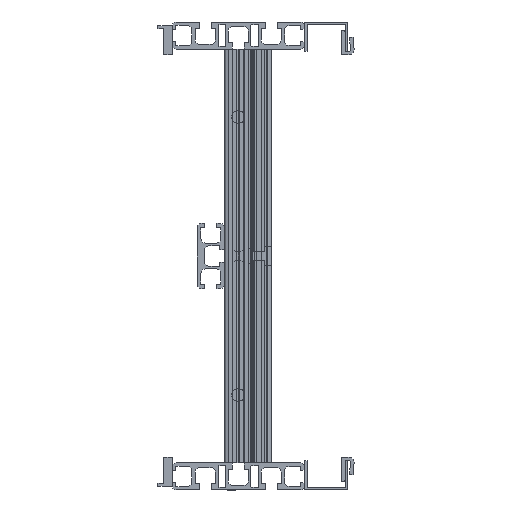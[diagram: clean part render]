
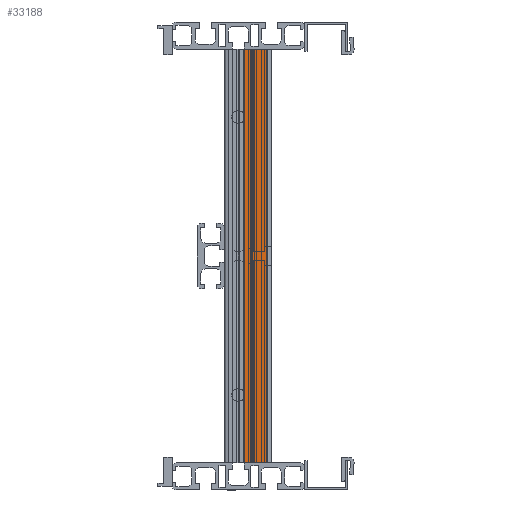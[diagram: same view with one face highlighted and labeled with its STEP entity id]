
A CAD part, left-side view. The second image highlights one B-rep face of the part: STEP entity #33188.
In plain terms, the highlighted planar face has unit normal (-1, 0, 0).
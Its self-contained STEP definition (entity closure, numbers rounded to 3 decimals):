
#2809 = DIRECTION ( 'NONE',  ( 0., 0., 1. ) ) ;
#2810 = DIRECTION ( 'NONE',  ( 0., 1., 0. ) ) ;
#2811 = CARTESIAN_POINT ( 'NONE',  ( -2410., -65., -141.5 ) ) ;
#2815 = DIRECTION ( 'NONE',  ( 0., 1., 0. ) ) ;
#2816 = CARTESIAN_POINT ( 'NONE',  ( -2410., -49.15, -141.5 ) ) ;
#2817 = CARTESIAN_POINT ( 'NONE',  ( -2410., -65., 141.5 ) ) ;
#2821 = CARTESIAN_POINT ( 'NONE',  ( -2410., -65., -141.5 ) ) ;
#2822 = DIRECTION ( 'NONE',  ( 0., 0., 1. ) ) ;
#5938 = LINE ( 'NONE', #2811, #5946 ) ;
#5945 = LINE ( 'NONE', #2816, #5951 ) ;
#5946 = VECTOR ( 'NONE', #2809, 1000. ) ;
#5947 = LINE ( 'NONE', #2817, #5949 ) ;
#5948 = LINE ( 'NONE', #2821, #5953 ) ;
#5949 = VECTOR ( 'NONE', #2815, 1000. ) ;
#5951 = VECTOR ( 'NONE', #2822, 1000. ) ;
#5953 = VECTOR ( 'NONE', #2810, 1000. ) ;
#22043 = CARTESIAN_POINT ( 'NONE',  ( -2410., -65., -141.5 ) ) ;
#22045 = CARTESIAN_POINT ( 'NONE',  ( -2410., -65., 141.5 ) ) ;
#22047 = CARTESIAN_POINT ( 'NONE',  ( -2410., -49.15, 141.5 ) ) ;
#22053 = CARTESIAN_POINT ( 'NONE',  ( -2410., -49.15, -141.5 ) ) ;
#24395 = CARTESIAN_POINT ( 'NONE',  ( -2410., -65., -141.5 ) ) ;
#24410 = PLANE ( 'NONE',  #45248 ) ;
#24413 = DIRECTION ( 'NONE',  ( 1., 0., 0. ) ) ;
#24415 = DIRECTION ( 'NONE',  ( 0., 0., -1. ) ) ;
#30148 = VERTEX_POINT ( 'NONE', #22043 ) ;
#30149 = VERTEX_POINT ( 'NONE', #22045 ) ;
#30150 = VERTEX_POINT ( 'NONE', #22047 ) ;
#30153 = VERTEX_POINT ( 'NONE', #22053 ) ;
#30270 = ORIENTED_EDGE ( 'NONE', *, *, #38418, .T. ) ;
#30271 = ORIENTED_EDGE ( 'NONE', *, *, #38426, .F. ) ;
#30272 = ORIENTED_EDGE ( 'NONE', *, *, #38424, .F. ) ;
#30273 = ORIENTED_EDGE ( 'NONE', *, *, #38422, .T. ) ;
#33188 = ADVANCED_FACE ( 'NONE', ( #53013 ), #24410, .F. ) ;
#38418 = EDGE_CURVE ( 'NONE', #30148, #30149, #5938, .T. ) ;
#38422 = EDGE_CURVE ( 'NONE', #30149, #30150, #5947, .T. ) ;
#38424 = EDGE_CURVE ( 'NONE', #30153, #30150, #5945, .T. ) ;
#38426 = EDGE_CURVE ( 'NONE', #30148, #30153, #5948, .T. ) ;
#45248 = AXIS2_PLACEMENT_3D ( 'NONE', #24395, #24413, #24415 ) ;
#47446 = EDGE_LOOP ( 'NONE', ( #30273, #30272, #30271, #30270 ) ) ;
#53013 = FACE_OUTER_BOUND ( 'NONE', #47446, .T. ) ;
